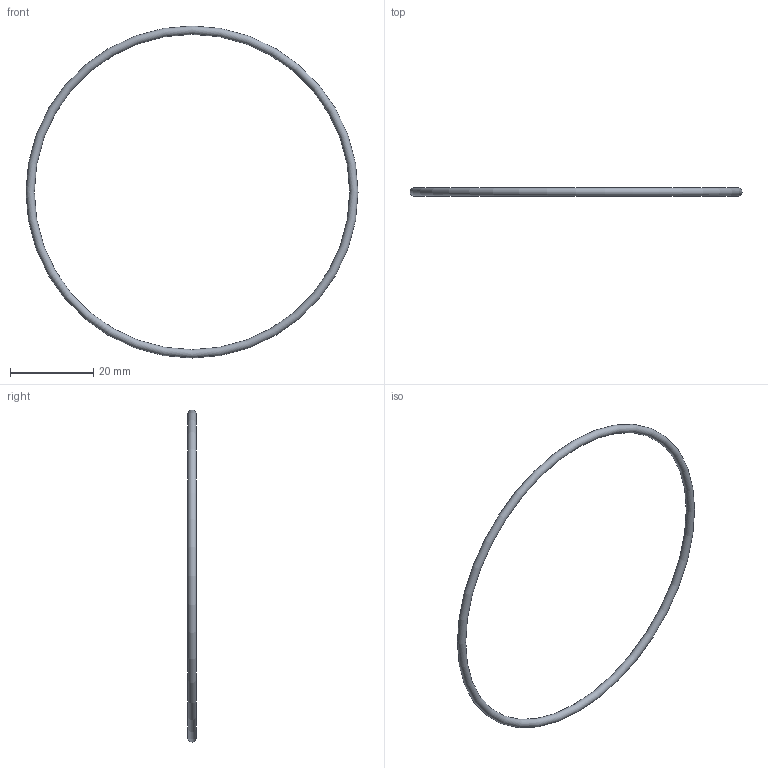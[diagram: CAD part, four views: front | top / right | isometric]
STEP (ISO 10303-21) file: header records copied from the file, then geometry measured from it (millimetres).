
FILE_DESCRIPTION( ( 'STEP AP203' ), '1' );
FILE_NAME( 'C:/Temp/Ganter_Step_05_03_2020/data/3_5/or638/O-Ring OR638-76.00-2.00-70.stp', '2020-03-12T13:44:24', ( 'License CC BY-ND 4.0' ), ( 'CADENAS' ), ' ', 'PARTsolutions', ' ' );
FILE_SCHEMA( ( 'CONFIG_CONTROL_DESIGN' ) );
Length unit declared in the file: millimetre
Products named in the file (1): _O-Ring OR638-76.00-2.00-70
Bounding box: 80 x 2 x 80 mm (x, y, z)
Volume: 769.8 mm3; surface area: 1539.7 mm2
Topology: 1 solids, 1 shells, 1 faces, 2 edges, 1 vertices
Faces by surface type: torus 1
Entity records: 62 total; most frequent: CC_DESIGN_PERSON_AND_ORGANIZATION_ASSIGNMENT 5, PERSON_AND_ORGANIZATION_ROLE 4, DIRECTION 4, CARTESIAN_POINT 3, DATE_TIME_ROLE 2, CC_DESIGN_DATE_AND_TIME_ASSIGNMENT 2, AXIS2_PLACEMENT_3D 2, DIMENSIONAL_EXPONENTS 2
